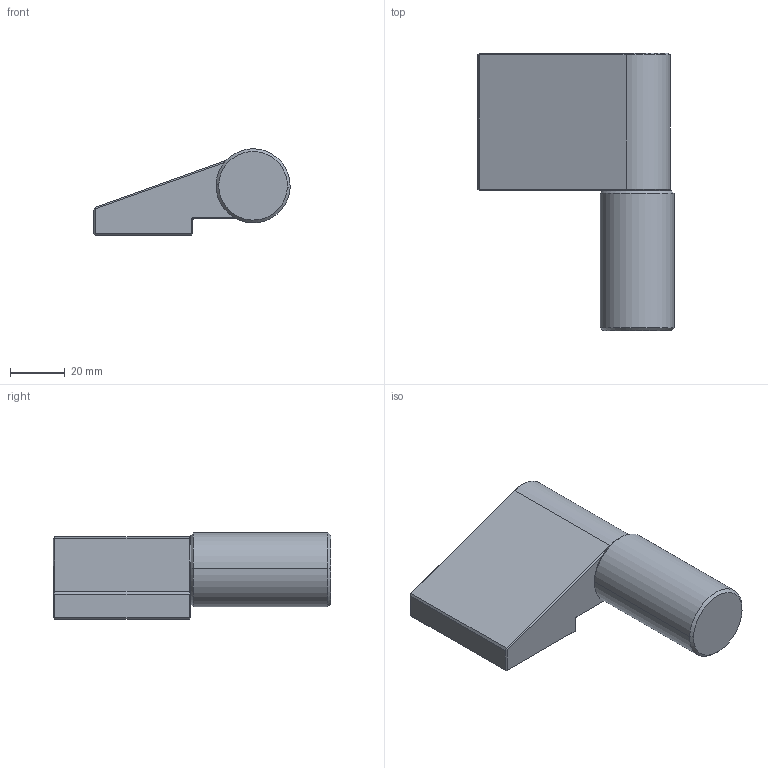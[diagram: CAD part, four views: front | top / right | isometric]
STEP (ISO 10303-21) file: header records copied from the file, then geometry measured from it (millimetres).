
FILE_DESCRIPTION (( 'STEP AP214' ), '1' );
FILE_NAME ('3.ST102.001.STEP', '2016-09-09T06:31:15', ( '' ), ( '' ), 'SwSTEP 2.0', 'SolidWorks 2015', '' );
FILE_SCHEMA (( 'AUTOMOTIVE_DESIGN' ));
Length unit declared in the file: millimetre
Products named in the file (4): 3.ST102.001.03_ciecie; 3.ST102.001.02; 3.ST102.001.01_GOTOWY; 3.ST102.001
Assembly tree (3 placements, depth 2):
  3.ST102.001
    3.ST102.001.01_GOTOWY
    3.ST102.001.02
    3.ST102.001.03_ciecie
Bounding box: 71.49 x 101 x 31.49 mm (x, y, z)
Volume: 89086.5 mm3; surface area: 20690.9 mm2
Topology: 3 solids, 3 shells, 72 faces, 149 edges, 86 vertices
Faces by surface type: plane 35, cone 19, cylinder 18
Entity records: 2247 total; most frequent: DIRECTION 361, CARTESIAN_POINT 313, ORIENTED_EDGE 298, EDGE_CURVE 149, AXIS2_PLACEMENT_3D 134, LINE 93, VECTOR 93, VERTEX_POINT 86
